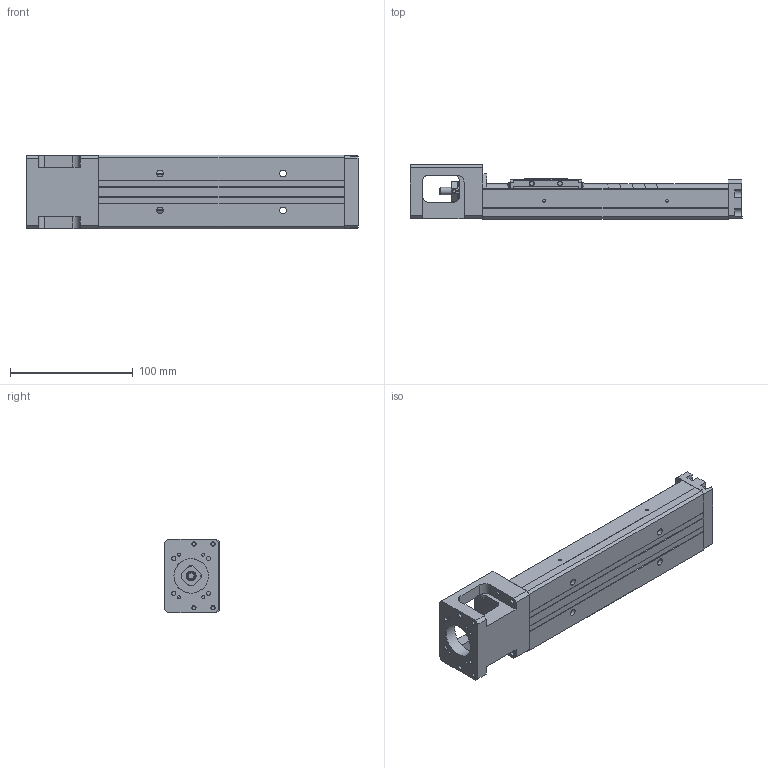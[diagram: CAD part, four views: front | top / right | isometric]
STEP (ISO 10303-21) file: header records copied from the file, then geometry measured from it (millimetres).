
FILE_DESCRIPTION(/* description */ (''),/* implementation_level */ '2;1');
FILE_NAME(/* name */ 'KP33S-200C02-1.stp',/* time_stamp */ '2020-07-01T11:51:54+08:00',/* author */ (''),/* organization */ (''),/* preprocessor_version */ 'ST-DEVELOPER v14',/* originating_system */ 'SIEMENS PLM Software NX 8.0',/* authorisation */ '');
FILE_SCHEMA (('AUTOMOTIVE_DESIGN { 1 0 10303 214 3 1 1 1 }'));
Length unit declared in the file: millimetre
Products named in the file (1): model1
Bounding box: 270 x 44.45 x 60 mm (x, y, z)
Volume: 331425.5 mm3; surface area: 94817.8 mm2
Topology: 5 solids, 10 shells, 583 faces, 1504 edges, 988 vertices
Faces by surface type: plane 345, cylinder 157, bspline 31, extrusion 21, cone 20, torus 7, sphere 2
Full cylindrical faces by diameter (mm): 1.6 x1, 1.65 x4, 2.15 x2, 2.42 x4, 2.45 x2, 2.5 x8, 3.2 x4, 3.3 x4, 3.4 x4, 3.5 x10, 3.969 x1, 4 x4, 4.001 x1, 4.135 x2, 5.5 x4, 6 x5, 7.6 x1, 8 x5, 9.5 x4, 10.72 x3, 11.8 x2, 12 x6, 12.8 x1, 13 x2, 14 x1, 16 x4, 21.5 x1, 28 x1
Entity records: 32487 total; most frequent: CARTESIAN_POINT 15007, DIRECTION 2678, ORIENTED_EDGE 2644, EDGE_CURVE 1322, AXIS2_PLACEMENT_3D 927, VERTEX_POINT 926, VECTOR 824, EDGE_LOOP 804
